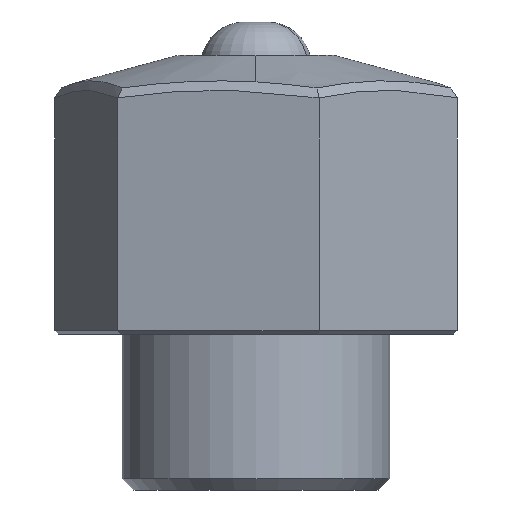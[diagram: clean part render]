
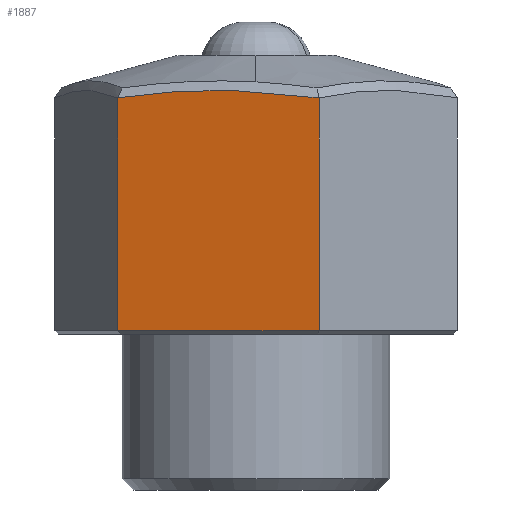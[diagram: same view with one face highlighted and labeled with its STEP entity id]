
A CAD part, front view. The second image highlights one B-rep face of the part: STEP entity #1887.
In plain terms, the highlighted planar face has unit normal (-0.211, -0.978, 0).
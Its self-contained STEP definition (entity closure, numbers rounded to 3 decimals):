
#24 = CARTESIAN_POINT ( 'NONE',  ( -12.401, -13.695, 14.3 ) ) ;
#69 = CARTESIAN_POINT ( 'NONE',  ( 4.07, -17.244, 35.402 ) ) ;
#86 = CARTESIAN_POINT ( 'NONE',  ( -8.252, -14.589, 35.669 ) ) ;
#98 = CARTESIAN_POINT ( 'NONE',  ( -5.568, -15.168, 35.837 ) ) ;
#105 = CARTESIAN_POINT ( 'NONE',  ( -7.789, -14.689, 35.706 ) ) ;
#114 = PLANE ( 'NONE',  #1610 ) ;
#223 = DIRECTION ( 'NONE',  ( 0., 0., -1. ) ) ;
#250 = CARTESIAN_POINT ( 'NONE',  ( 1.221, -16.63, 35.692 ) ) ;
#270 = CARTESIAN_POINT ( 'NONE',  ( 3.526, -17.127, 35.466 ) ) ;
#280 = CARTESIAN_POINT ( 'NONE',  ( -12.401, -13.695, 35.192 ) ) ;
#283 = CARTESIAN_POINT ( 'NONE',  ( -0.409, -16.279, 35.802 ) ) ;
#293 = CARTESIAN_POINT ( 'NONE',  ( -7.862, -14.673, 35.7 ) ) ;
#352 = CARTESIAN_POINT ( 'NONE',  ( 5.66, -17.587, 14.3 ) ) ;
#421 = CARTESIAN_POINT ( 'NONE',  ( 1.243, -16.635, 35.691 ) ) ;
#431 = ORIENTED_EDGE ( 'NONE', *, *, #822, .F. ) ;
#442 = CARTESIAN_POINT ( 'NONE',  ( -1.011, -16.149, 35.831 ) ) ;
#452 = CARTESIAN_POINT ( 'NONE',  ( -5.519, -15.178, 35.839 ) ) ;
#529 = ORIENTED_EDGE ( 'NONE', *, *, #1434, .T. ) ;
#548 = ORIENTED_EDGE ( 'NONE', *, *, #1769, .T. ) ;
#581 = CARTESIAN_POINT ( 'NONE',  ( -10.874, -14.024, 35.398 ) ) ;
#602 = CARTESIAN_POINT ( 'NONE',  ( -2.578, -15.812, 35.881 ) ) ;
#609 = B_SPLINE_CURVE_WITH_KNOTS ( 'NONE', 3,
 ( #1369, #2022, #1862, #69, #732, #1377, #270, #1274, #761, #1408, #1083, #622, #2073, #1556, #1582, #421, #250, #1252, #1423, #283, #2063, #921, #1400, #442, #1432, #602, #612, #1091, #1754, #1714, #939, #452, #98, #2054, #1909, #1062, #949, #909, #105, #1441, #293, #86, #1073, #1591, #1565, #751, #2086, #1928, #2045, #581, #1232, #1263 ),
 .UNSPECIFIED., .F., .F.,
 ( 4, 1, 1, 1, 1, 2, 2, 1, 1, 1, 1, 2, 2, 1, 1, 1, 2, 2, 2, 1, 1, 1, 2, 2, 1, 1, 1, 1, 2, 2, 1, 1, 1, 1, 2, 2, 4 ),
 ( 0., 0.062, 0.094, 0.109, 0.117, 0.121, 0.125, 0.187, 0.219, 0.234, 0.242, 0.246, 0.25, 0.313, 0.344, 0.359, 0.367, 0.375, 0.5, 0.563, 0.594, 0.609, 0.617, 0.625, 0.688, 0.719, 0.734, 0.742, 0.746, 0.75, 0.813, 0.844, 0.859, 0.867, 0.871, 0.875, 1. ),
 .UNSPECIFIED. ) ;
#610 = CARTESIAN_POINT ( 'NONE',  ( -12.401, -13.695, 39. ) ) ;
#612 = CARTESIAN_POINT ( 'NONE',  ( -3.711, -15.568, 35.882 ) ) ;
#622 = CARTESIAN_POINT ( 'NONE',  ( 1.838, -16.763, 35.64 ) ) ;
#648 = DIRECTION ( 'NONE',  ( 0.978, -0.211, 0. ) ) ;
#651 = ORIENTED_EDGE ( 'NONE', *, *, #1353, .T. ) ;
#675 = CARTESIAN_POINT ( 'NONE',  ( -12.401, -13.695, 14.3 ) ) ;
#701 = DIRECTION ( 'NONE',  ( 0., 0., -1. ) ) ;
#732 = CARTESIAN_POINT ( 'NONE',  ( 3.752, -17.176, 35.44 ) ) ;
#751 = CARTESIAN_POINT ( 'NONE',  ( -9.978, -14.217, 35.499 ) ) ;
#761 = CARTESIAN_POINT ( 'NONE',  ( 3.46, -17.113, 35.474 ) ) ;
#762 = CARTESIAN_POINT ( 'NONE',  ( 5.66, -17.587, 35.192 ) ) ;
#822 = EDGE_CURVE ( 'NONE', #1628, #1450, #1845, .T. ) ;
#909 = CARTESIAN_POINT ( 'NONE',  ( -7.717, -14.704, 35.712 ) ) ;
#921 = CARTESIAN_POINT ( 'NONE',  ( -0.873, -16.179, 35.825 ) ) ;
#939 = CARTESIAN_POINT ( 'NONE',  ( -5.423, -15.199, 35.843 ) ) ;
#947 = VECTOR ( 'NONE', #223, 1000. ) ;
#949 = CARTESIAN_POINT ( 'NONE',  ( -7.549, -14.741, 35.724 ) ) ;
#1020 = CARTESIAN_POINT ( 'NONE',  ( 5.66, -17.587, 39. ) ) ;
#1060 = DIRECTION ( 'NONE',  ( 0.211, 0.978, 0. ) ) ;
#1062 = CARTESIAN_POINT ( 'NONE',  ( -7.214, -14.813, 35.749 ) ) ;
#1073 = CARTESIAN_POINT ( 'NONE',  ( -8.81, -14.469, 35.62 ) ) ;
#1083 = CARTESIAN_POINT ( 'NONE',  ( 2.487, -16.903, 35.58 ) ) ;
#1091 = CARTESIAN_POINT ( 'NONE',  ( -4.28, -15.445, 35.876 ) ) ;
#1180 = LINE ( 'NONE', #1357, #947 ) ;
#1186 = VECTOR ( 'NONE', #701, 1000. ) ;
#1232 = CARTESIAN_POINT ( 'NONE',  ( -11.626, -13.862, 35.302 ) ) ;
#1241 = FACE_OUTER_BOUND ( 'NONE', #1893, .T. ) ;
#1252 = CARTESIAN_POINT ( 'NONE',  ( 0.815, -16.543, 35.725 ) ) ;
#1263 = CARTESIAN_POINT ( 'NONE',  ( -12.401, -13.695, 35.192 ) ) ;
#1274 = CARTESIAN_POINT ( 'NONE',  ( 3.481, -17.117, 35.472 ) ) ;
#1353 = EDGE_CURVE ( 'NONE', #1628, #2035, #609, .T. ) ;
#1357 = CARTESIAN_POINT ( 'NONE',  ( -12.401, -13.695, 39. ) ) ;
#1369 = CARTESIAN_POINT ( 'NONE',  ( 5.66, -17.587, 35.192 ) ) ;
#1377 = CARTESIAN_POINT ( 'NONE',  ( 3.594, -17.142, 35.459 ) ) ;
#1400 = CARTESIAN_POINT ( 'NONE',  ( -0.966, -16.159, 35.829 ) ) ;
#1408 = CARTESIAN_POINT ( 'NONE',  ( 3.054, -17.025, 35.52 ) ) ;
#1423 = CARTESIAN_POINT ( 'NONE',  ( 0.247, -16.42, 35.765 ) ) ;
#1432 = CARTESIAN_POINT ( 'NONE',  ( -1.821, -15.975, 35.865 ) ) ;
#1434 = EDGE_CURVE ( 'NONE', #1440, #1450, #1808, .T. ) ;
#1440 = VERTEX_POINT ( 'NONE', #24 ) ;
#1441 = CARTESIAN_POINT ( 'NONE',  ( -7.837, -14.679, 35.702 ) ) ;
#1450 = VERTEX_POINT ( 'NONE', #352 ) ;
#1556 = CARTESIAN_POINT ( 'NONE',  ( 1.357, -16.66, 35.681 ) ) ;
#1565 = CARTESIAN_POINT ( 'NONE',  ( -9.809, -14.254, 35.518 ) ) ;
#1582 = CARTESIAN_POINT ( 'NONE',  ( 1.288, -16.645, 35.687 ) ) ;
#1591 = CARTESIAN_POINT ( 'NONE',  ( -9.474, -14.326, 35.553 ) ) ;
#1610 = AXIS2_PLACEMENT_3D ( 'NONE', #610, #1060, #1742 ) ;
#1628 = VERTEX_POINT ( 'NONE', #762 ) ;
#1685 = VECTOR ( 'NONE', #648, 1000. ) ;
#1714 = CARTESIAN_POINT ( 'NONE',  ( -5.28, -15.23, 35.848 ) ) ;
#1742 = DIRECTION ( 'NONE',  ( -0.978, 0.211, 0. ) ) ;
#1754 = CARTESIAN_POINT ( 'NONE',  ( -4.946, -15.301, 35.859 ) ) ;
#1769 = EDGE_CURVE ( 'NONE', #2035, #1440, #1180, .T. ) ;
#1808 = LINE ( 'NONE', #675, #1685 ) ;
#1845 = LINE ( 'NONE', #1020, #1186 ) ;
#1862 = CARTESIAN_POINT ( 'NONE',  ( 4.714, -17.383, 35.322 ) ) ;
#1887 = ADVANCED_FACE ( 'NONE', ( #1241 ), #114, .F. ) ;
#1893 = EDGE_LOOP ( 'NONE', ( #431, #651, #548, #529 ) ) ;
#1909 = CARTESIAN_POINT ( 'NONE',  ( -6.549, -14.956, 35.792 ) ) ;
#1928 = CARTESIAN_POINT ( 'NONE',  ( -10.098, -14.191, 35.486 ) ) ;
#2022 = CARTESIAN_POINT ( 'NONE',  ( 5.278, -17.505, 35.246 ) ) ;
#2035 = VERTEX_POINT ( 'NONE', #280 ) ;
#2045 = CARTESIAN_POINT ( 'NONE',  ( -10.124, -14.186, 35.483 ) ) ;
#2054 = CARTESIAN_POINT ( 'NONE',  ( -5.986, -15.077, 35.82 ) ) ;
#2063 = CARTESIAN_POINT ( 'NONE',  ( -0.734, -16.209, 35.818 ) ) ;
#2073 = CARTESIAN_POINT ( 'NONE',  ( 1.517, -16.694, 35.668 ) ) ;
#2086 = CARTESIAN_POINT ( 'NONE',  ( -10.05, -14.202, 35.491 ) ) ;
